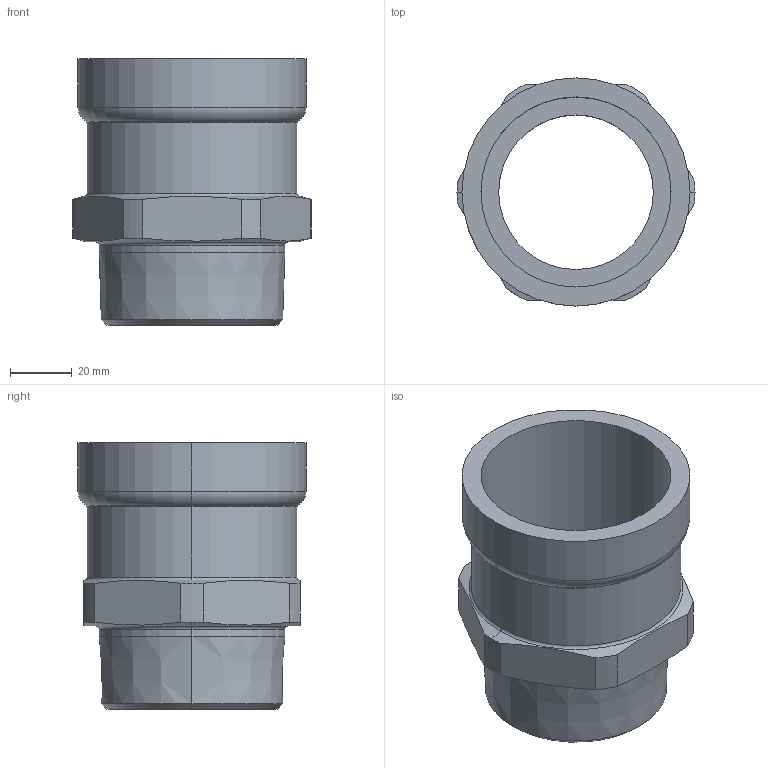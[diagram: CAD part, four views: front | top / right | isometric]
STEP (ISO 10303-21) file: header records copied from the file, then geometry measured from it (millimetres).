
FILE_DESCRIPTION(('Creo Elements/Direct Modeling STEP Export'),'2;1');
FILE_NAME('C9405_2.stp','2020-06-18T16:34:18',(''),(''),'PTC Creo Elements/Direct Modeling STEP processor for AP214 (Solid Model)','PTC Creo Elements/Direct Modeling 19.0C 15-Aug-2015 (C) Parametric Technology GmbH','');
FILE_SCHEMA(('AUTOMOTIVE_DESIGN { 1 0 10303 214 1 1 1 1 }'));
Length unit declared in the file: millimetre
Products named in the file (2): 9405_2
Assembly tree (1 placements, depth 2):
  9405_2
    9405_2
Bounding box: 77 x 73.8 x 86.12 mm (x, y, z)
Volume: 86076.5 mm3; surface area: 38459.1 mm2
Topology: 1 solids, 1 shells, 42 faces, 102 edges, 64 vertices
Faces by surface type: cylinder 16, plane 10, cone 8, torus 8
Entity records: 1899 total; most frequent: CARTESIAN_POINT 934, ORIENTED_EDGE 204, DIRECTION 174, EDGE_CURVE 102, AXIS2_PLACEMENT_3D 72, VERTEX_POINT 64, EDGE_LOOP 46, FACE_OUTER_BOUND 42
